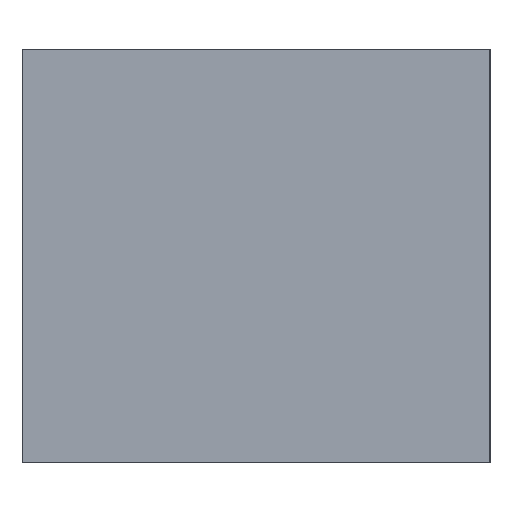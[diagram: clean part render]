
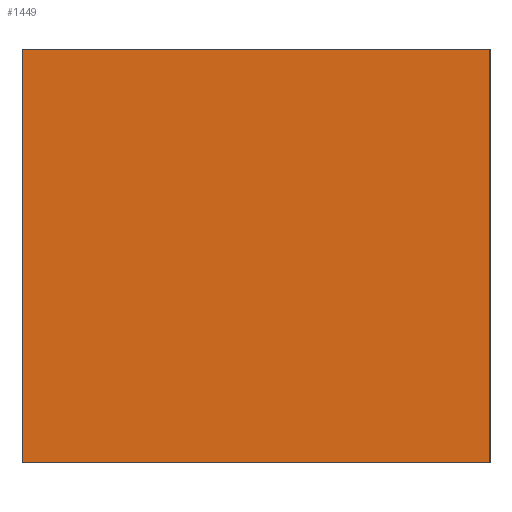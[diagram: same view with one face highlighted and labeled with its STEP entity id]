
A CAD part, left-side view. The second image highlights one B-rep face of the part: STEP entity #1449.
In plain terms, the highlighted planar face has unit normal (-1, 0, 0).
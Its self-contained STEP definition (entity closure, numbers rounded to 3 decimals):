
#22=DIRECTION('',(0.,0.,-1.));
#23=VECTOR('',#22,76.);
#24=CARTESIAN_POINT('',(-69.,-43.,0.));
#25=LINE('',#24,#23);
#307=DIRECTION('',(0.,-1.,0.));
#308=VECTOR('',#307,86.);
#309=CARTESIAN_POINT('',(-69.,43.,0.));
#310=LINE('',#309,#308);
#369=DIRECTION('',(0.,0.,-1.));
#370=VECTOR('',#369,76.);
#371=CARTESIAN_POINT('',(-69.,43.,0.));
#372=LINE('',#371,#370);
#391=DIRECTION('',(0.,1.,0.));
#392=VECTOR('',#391,86.);
#393=CARTESIAN_POINT('',(-69.,-43.,-76.));
#394=LINE('',#393,#392);
#814=CARTESIAN_POINT('',(-69.,-43.,0.));
#815=VERTEX_POINT('',#814);
#816=CARTESIAN_POINT('',(-69.,-43.,-76.));
#817=VERTEX_POINT('',#816);
#818=CARTESIAN_POINT('',(-69.,43.,0.));
#819=CARTESIAN_POINT('',(-69.,43.,-76.));
#820=VERTEX_POINT('',#818);
#821=VERTEX_POINT('',#819);
#1437=CARTESIAN_POINT('',(-69.,0.,-76.));
#1438=DIRECTION('',(-1.,0.,0.));
#1439=DIRECTION('',(0.,0.,1.));
#1440=AXIS2_PLACEMENT_3D('',#1437,#1438,#1439);
#1441=PLANE('',#1440);
#1442=ORIENTED_EDGE('',*,*,#1007,.T.);
#1444=ORIENTED_EDGE('',*,*,#1443,.T.);
#1445=ORIENTED_EDGE('',*,*,#1142,.F.);
#1446=ORIENTED_EDGE('',*,*,#1400,.T.);
#1447=EDGE_LOOP('',(#1442,#1444,#1445,#1446));
#1448=FACE_OUTER_BOUND('',#1447,.F.);
#1007=EDGE_CURVE('',#815,#817,#25,.T.);
#1142=EDGE_CURVE('',#820,#821,#372,.T.);
#1400=EDGE_CURVE('',#820,#815,#310,.T.);
#1443=EDGE_CURVE('',#817,#821,#394,.T.);
#1449=ADVANCED_FACE('',(#1448),#1441,.T.);
